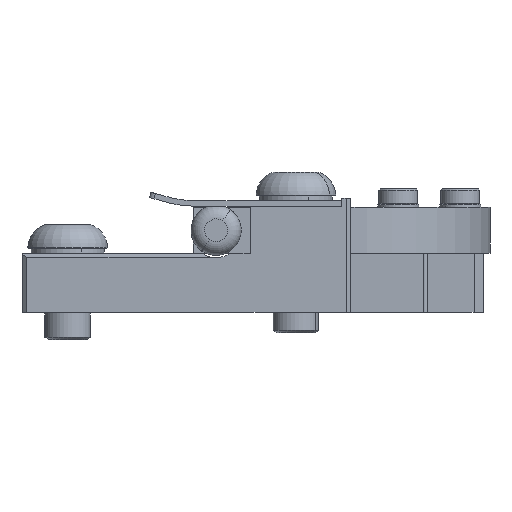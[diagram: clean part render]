
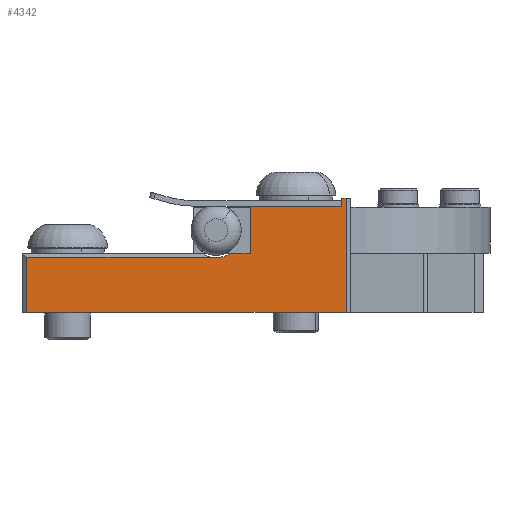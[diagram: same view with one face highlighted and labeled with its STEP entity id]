
A CAD part, front view. The second image highlights one B-rep face of the part: STEP entity #4342.
In plain terms, the highlighted planar face has unit normal (0, -1, 0).
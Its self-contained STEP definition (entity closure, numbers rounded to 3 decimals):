
#37 = ORIENTED_EDGE ( 'NONE', *, *, #8517, .F. ) ;
#277 = EDGE_CURVE ( 'NONE', #8653, #1743, #7108, .T. ) ;
#357 = DIRECTION ( 'NONE',  ( 1., 0., 0. ) ) ;
#373 = LINE ( 'NONE', #5722, #6124 ) ;
#548 = CARTESIAN_POINT ( 'NONE',  ( 10., -10., 25. ) ) ;
#600 = LINE ( 'NONE', #4721, #1596 ) ;
#875 = CIRCLE ( 'NONE', #7972, 5.5 ) ;
#967 = FACE_OUTER_BOUND ( 'NONE', #3456, .T. ) ;
#977 = DIRECTION ( 'NONE',  ( -1., 0., 0. ) ) ;
#1057 = CARTESIAN_POINT ( 'NONE',  ( -10., -10., 23.3 ) ) ;
#1180 = VECTOR ( 'NONE', #8776, 1000. ) ;
#1182 = EDGE_CURVE ( 'NONE', #1743, #5121, #373, .T. ) ;
#1245 = VERTEX_POINT ( 'NONE', #8433 ) ;
#1255 = DIRECTION ( 'NONE',  ( 0., 0., 1. ) ) ;
#1329 = CARTESIAN_POINT ( 'NONE',  ( -59., -10., 12.134 ) ) ;
#1398 = CARTESIAN_POINT ( 'NONE',  ( -59., -10., 0. ) ) ;
#1463 = EDGE_CURVE ( 'NONE', #8247, #7704, #3498, .T. ) ;
#1596 = VECTOR ( 'NONE', #6198, 1000. ) ;
#1721 = ORIENTED_EDGE ( 'NONE', *, *, #5429, .T. ) ;
#1730 = ORIENTED_EDGE ( 'NONE', *, *, #277, .T. ) ;
#1743 = VERTEX_POINT ( 'NONE', #1329 ) ;
#1953 = LINE ( 'NONE', #1057, #2735 ) ;
#2100 = ORIENTED_EDGE ( 'NONE', *, *, #7611, .F. ) ;
#2193 = VERTEX_POINT ( 'NONE', #4728 ) ;
#2429 = LINE ( 'NONE', #4523, #4508 ) ;
#2513 = CARTESIAN_POINT ( 'NONE',  ( 10., -10., 25. ) ) ;
#2703 = VECTOR ( 'NONE', #1255, 1000. ) ;
#2735 = VECTOR ( 'NONE', #7454, 1000. ) ;
#2918 = ORIENTED_EDGE ( 'NONE', *, *, #1463, .T. ) ;
#2963 = EDGE_CURVE ( 'NONE', #6207, #1245, #2429, .T. ) ;
#3317 = LINE ( 'NONE', #6063, #1180 ) ;
#3376 = VECTOR ( 'NONE', #977, 1000. ) ;
#3385 = ORIENTED_EDGE ( 'NONE', *, *, #3966, .T. ) ;
#3456 = EDGE_LOOP ( 'NONE', ( #5406, #1730, #4353, #3385, #1721, #37, #2918, #2100, #4489, #4202 ) ) ;
#3498 = LINE ( 'NONE', #4130, #7980 ) ;
#3544 = DIRECTION ( 'NONE',  ( 0., 0., -1. ) ) ;
#3678 = DIRECTION ( 'NONE',  ( 1., 0., 0. ) ) ;
#3806 = DIRECTION ( 'NONE',  ( 1., 0., 0. ) ) ;
#3966 = EDGE_CURVE ( 'NONE', #5121, #2193, #600, .T. ) ;
#3992 = AXIS2_PLACEMENT_3D ( 'NONE', #8391, #4354, #3678 ) ;
#4130 = CARTESIAN_POINT ( 'NONE',  ( 10., -10., 25. ) ) ;
#4202 = ORIENTED_EDGE ( 'NONE', *, *, #2963, .F. ) ;
#4342 = ADVANCED_FACE ( 'NONE', ( #967 ), #5681, .F. ) ;
#4353 = ORIENTED_EDGE ( 'NONE', *, *, #1182, .T. ) ;
#4354 = DIRECTION ( 'NONE',  ( 0., 1., 0. ) ) ;
#4379 = VERTEX_POINT ( 'NONE', #4490 ) ;
#4425 = DIRECTION ( 'NONE',  ( -1., 0., 0. ) ) ;
#4455 = CARTESIAN_POINT ( 'NONE',  ( -59., -10., 12.134 ) ) ;
#4489 = ORIENTED_EDGE ( 'NONE', *, *, #8254, .T. ) ;
#4490 = CARTESIAN_POINT ( 'NONE',  ( -10., -10., 23.3 ) ) ;
#4508 = VECTOR ( 'NONE', #3806, 1000. ) ;
#4523 = CARTESIAN_POINT ( 'NONE',  ( -60., -10., 13. ) ) ;
#4721 = CARTESIAN_POINT ( 'NONE',  ( -60., -10., 0. ) ) ;
#4728 = CARTESIAN_POINT ( 'NONE',  ( 11., -10., 0. ) ) ;
#4752 = EDGE_CURVE ( 'NONE', #6207, #8653, #875, .T. ) ;
#4826 = CARTESIAN_POINT ( 'NONE',  ( -18.707, -10., 12.134 ) ) ;
#5121 = VERTEX_POINT ( 'NONE', #1398 ) ;
#5406 = ORIENTED_EDGE ( 'NONE', *, *, #4752, .T. ) ;
#5429 = EDGE_CURVE ( 'NONE', #2193, #6067, #8135, .T. ) ;
#5681 = PLANE ( 'NONE',  #3992 ) ;
#5722 = CARTESIAN_POINT ( 'NONE',  ( -59., -10., 13. ) ) ;
#5781 = CARTESIAN_POINT ( 'NONE',  ( 11., -10., 25. ) ) ;
#6063 = CARTESIAN_POINT ( 'NONE',  ( -10., -10., 23.3 ) ) ;
#6067 = VERTEX_POINT ( 'NONE', #5781 ) ;
#6124 = VECTOR ( 'NONE', #8478, 1000. ) ;
#6198 = DIRECTION ( 'NONE',  ( 1., 0., 0. ) ) ;
#6207 = VERTEX_POINT ( 'NONE', #8253 ) ;
#6527 = DIRECTION ( 'NONE',  ( 0., 1., 0. ) ) ;
#6846 = CARTESIAN_POINT ( 'NONE',  ( 11., -10., 13. ) ) ;
#7082 = CARTESIAN_POINT ( 'NONE',  ( -17.5, -10., 17.5 ) ) ;
#7091 = CARTESIAN_POINT ( 'NONE',  ( 10., -10., 23.3 ) ) ;
#7108 = LINE ( 'NONE', #4455, #3376 ) ;
#7328 = VECTOR ( 'NONE', #357, 1000. ) ;
#7454 = DIRECTION ( 'NONE',  ( 0., 0., -1. ) ) ;
#7611 = EDGE_CURVE ( 'NONE', #4379, #7704, #3317, .T. ) ;
#7704 = VERTEX_POINT ( 'NONE', #7091 ) ;
#7972 = AXIS2_PLACEMENT_3D ( 'NONE', #7082, #6527, #4425 ) ;
#7980 = VECTOR ( 'NONE', #3544, 1000. ) ;
#8135 = LINE ( 'NONE', #6846, #2703 ) ;
#8247 = VERTEX_POINT ( 'NONE', #548 ) ;
#8253 = CARTESIAN_POINT ( 'NONE',  ( -14.338, -10., 13. ) ) ;
#8254 = EDGE_CURVE ( 'NONE', #4379, #1245, #1953, .T. ) ;
#8391 = CARTESIAN_POINT ( 'NONE',  ( -60., -10., 13. ) ) ;
#8433 = CARTESIAN_POINT ( 'NONE',  ( -10., -10., 13. ) ) ;
#8478 = DIRECTION ( 'NONE',  ( 0., 0., -1. ) ) ;
#8517 = EDGE_CURVE ( 'NONE', #8247, #6067, #8541, .T. ) ;
#8541 = LINE ( 'NONE', #2513, #7328 ) ;
#8653 = VERTEX_POINT ( 'NONE', #4826 ) ;
#8776 = DIRECTION ( 'NONE',  ( 1., 0., 0. ) ) ;
